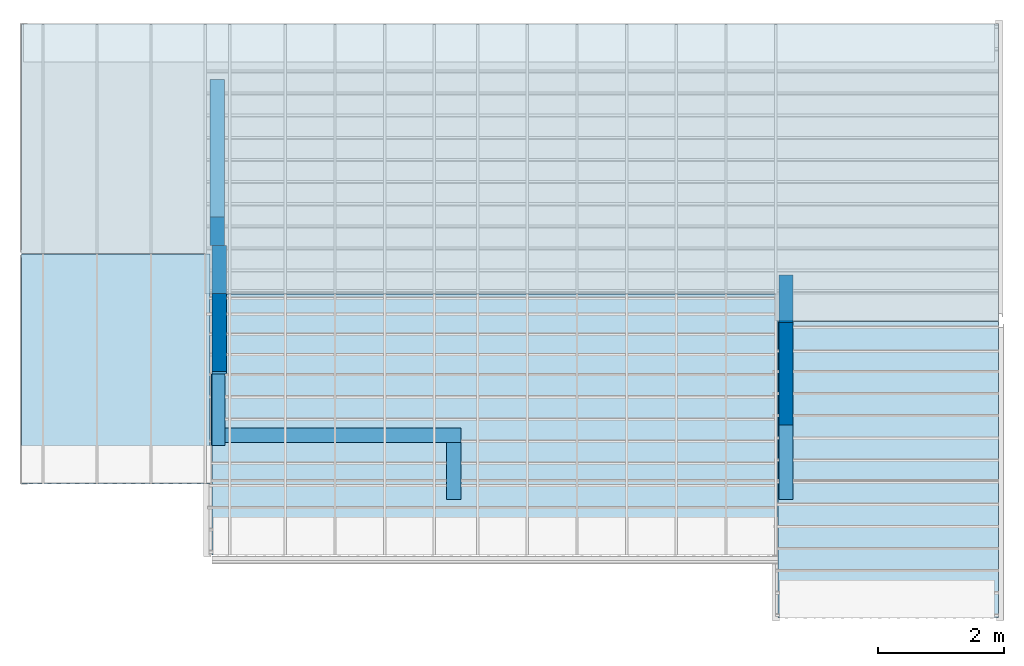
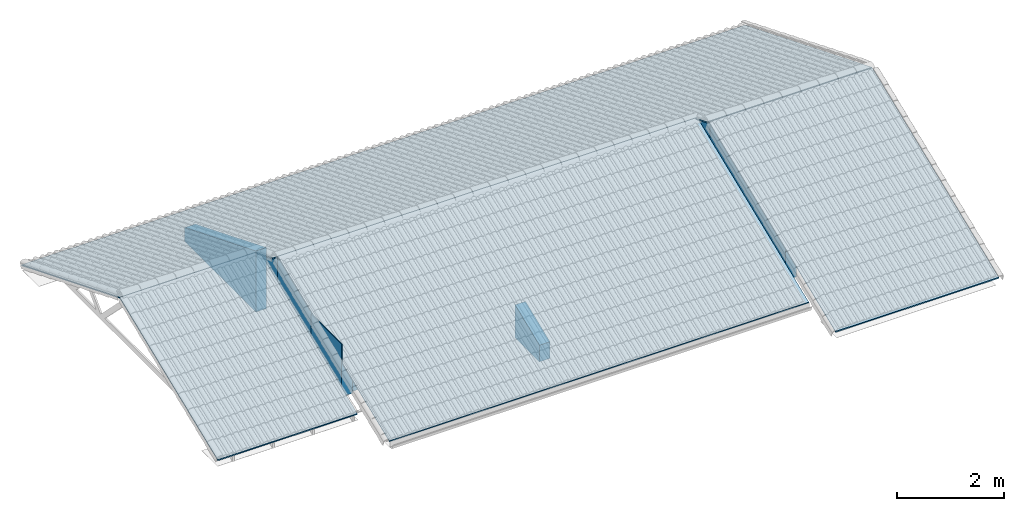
# One storey, part 1 of 5: 8 walls, 4 slabs, 4 elements without a shape of their own.
"""IFC2X3 building model written with IfcOpenShell, lengths in millimetres."""

import ifcopenshell
import ifcopenshell.guid

model = None  # the IFC model being written
_history = None  # IfcOwnerHistory: only IFC2X3 demands one
_inside = {}  # id of a spatial element -> (the spatial element, [elements in it])
_under = {}  # id of a project, library or spatial element -> (it, [spatial elements below it])
_declared = {}  # id of a project -> (the project, [libraries it declares])
_typed = {}  # id of a type object -> (the type object, [elements of that type])
_made_of = {}  # id of a material, layer set ... -> (it, [elements and type objects made of it])


def new_model(schema):
    """Start an empty IFC model of exactly this schema.

    Asked for "IFC4X3", IfcOpenShell would pick the latest addendum, in which some entities
    have other attributes; the version numbers below select the first issue.
    IFC2X3 requires an IfcOwnerHistory on every rooted entity: one is made here for all.
    """
    global model, _history
    if schema == "IFC4X3":
        model = ifcopenshell.file(schema_version=(4, 3, 0, 0))
    else:
        model = ifcopenshell.file(schema=schema)
    _inside.clear()
    _under.clear()
    _declared.clear()
    _typed.clear()
    _made_of.clear()
    _history = None
    if model.schema == "IFC2X3":
        org = make("IfcOrganization", Name="unknown")
        user = make(
            "IfcPersonAndOrganization",
            ThePerson=make("IfcPerson", FamilyName="unknown"),
            TheOrganization=org,
        )
        app = make(
            "IfcApplication",
            ApplicationDeveloper=org,
            Version="unknown",
            ApplicationFullName="unknown",
            ApplicationIdentifier="unknown",
        )
        _history = make(
            "IfcOwnerHistory",
            OwningUser=user,
            OwningApplication=app,
            ChangeAction="ADDED",
            CreationDate=0,
        )
    return model


def make(cls, **values):
    """One entity of the class cls with the attributes given. An attribute that is None is left unset."""
    return model.create_entity(
        cls, **{name: value for name, value in values.items() if value is not None}
    )


def entity(cls, *values):
    """Any entity or typed value of the class cls, its attributes in the order of the schema. None: left unset."""
    e = model.create_entity(cls)
    for i, value in enumerate(values):
        if value is not None:
            e[i] = value
    return e


def rooted(cls, **values):
    """An entity with a GlobalId (a new one), such as an element, a storey or a relation."""
    return make(cls, GlobalId=ifcopenshell.guid.new(), OwnerHistory=_history, **values)


def si_unit(unit_type, name, prefix=None):
    """IfcSIUnit, for example si_unit("LENGTHUNIT", "METRE", prefix="MILLI")."""
    return make("IfcSIUnit", UnitType=unit_type, Prefix=prefix, Name=name)


def converted_unit(unit_type, name, factor, base, dimensions=None, offset=None):
    """IfcConversionBasedUnit, such as the inch: factor (a typed value) times the base unit."""
    return make(
        "IfcConversionBasedUnit"
        if offset is None
        else "IfcConversionBasedUnitWithOffset",
        ConversionOffset=offset,
        Dimensions=None
        if dimensions is None
        else entity("IfcDimensionalExponents", *dimensions),
        UnitType=unit_type,
        Name=name,
        ConversionFactor=make(
            "IfcMeasureWithUnit", ValueComponent=factor, UnitComponent=base
        ),
    )


def derived_unit(unit_type, elements):
    """IfcDerivedUnit: a product of units, each with its exponent."""
    return make(
        "IfcDerivedUnit",
        Elements=[
            make("IfcDerivedUnitElement", Unit=unit, Exponent=power)
            for unit, power in elements
        ],
        UnitType=unit_type,
    )


def assignment(units):
    """IfcUnitAssignment: the units of a project."""
    return None if units is None else make("IfcUnitAssignment", Units=units)


def point(xyz):
    """IfcCartesianPoint."""
    return None if xyz is None else make("IfcCartesianPoint", Coordinates=xyz)


def direction(xyz):
    """IfcDirection."""
    return None if xyz is None else make("IfcDirection", DirectionRatios=xyz)


def frame(location, z_axis=None, x_axis=None):
    """IfcAxis2Placement3D, a coordinate frame: its origin and axes. An axis left out is left unset."""
    return make(
        "IfcAxis2Placement3D",
        Location=point(location),
        Axis=direction(z_axis),
        RefDirection=direction(x_axis),
    )


def frame_2d(location, x_axis=None):
    """IfcAxis2Placement2D, a coordinate frame in the plane: its origin and x axis."""
    return make(
        "IfcAxis2Placement2D", Location=point(location), RefDirection=direction(x_axis)
    )


def origin():
    """The frame at (0, 0, 0) with its axes left unset."""
    return frame((0.0, 0.0, 0.0))


def origin_2d_with_axis():
    """The frame at (0, 0) in the plane with the x axis (1, 0) written out."""
    return frame_2d((0.0, 0.0), x_axis=(1.0, 0.0))


def place(relative_to, where):
    """IfcLocalPlacement: puts the frame where relative to a parent placement (None: the world)."""
    return make(
        "IfcLocalPlacement", PlacementRelTo=relative_to, RelativePlacement=where
    )


def context(
    kind, dimensions, precision=None, world=None, true_north=None, identifier=None
):
    """IfcGeometricRepresentationContext, for example the 3D "Model" context."""
    return make(
        "IfcGeometricRepresentationContext",
        ContextIdentifier=identifier,
        ContextType=kind,
        CoordinateSpaceDimension=dimensions,
        Precision=precision,
        WorldCoordinateSystem=world,
        TrueNorth=true_north,
    )


def subcontext(parent, identifier, kind, view, scale=None):
    """IfcGeometricRepresentationSubContext, for example "Body" below "Model"."""
    return make(
        "IfcGeometricRepresentationSubContext",
        ContextIdentifier=identifier,
        ContextType=kind,
        ParentContext=parent,
        TargetScale=scale,
        TargetView=view,
    )


def project(units=None, contexts=None):
    """IfcProject with its units and contexts."""
    return rooted(
        "IfcProject",
        Name="project",
        RepresentationContexts=contexts,
        UnitsInContext=assignment(units),
    )


def spatial(cls, under=None, at=None, **own):
    """A site, building, storey or space (cls), placed at a placement, below another one or the project."""
    s = rooted(cls, ObjectPlacement=at, **own)
    if under is not None:
        _under.setdefault(under.id(), (under, []))[1].append(s)
    return s


def polyline(points):
    """IfcPolyline through the points."""
    return make("IfcPolyline", Points=[point(p) for p in points])


def profile(cls, at=None, kind="AREA", **sizes):
    """A parametric profile (cls). Its sizes go by their IFC names, for example OverallWidth=200.0."""
    return make(cls, ProfileType=kind, Position=at, **sizes)


def rectangle(**sizes):
    """IfcRectangleProfileDef."""
    return profile("IfcRectangleProfileDef", **sizes)


def outline(outer, holes=None, kind="AREA"):
    """IfcArbitraryClosedProfileDef: a profile drawn as a closed curve; with holes, ...WithVoids."""
    if holes is None:
        return make("IfcArbitraryClosedProfileDef", ProfileType=kind, OuterCurve=outer)
    return make(
        "IfcArbitraryProfileDefWithVoids",
        ProfileType=kind,
        OuterCurve=outer,
        InnerCurves=holes,
    )


def extrude(swept, where, along, depth):
    """IfcExtrudedAreaSolid: the profile swept, set in the frame where, extruded along a direction by depth."""
    return make(
        "IfcExtrudedAreaSolid",
        SweptArea=swept,
        Position=where,
        ExtrudedDirection=direction(along),
        Depth=depth,
    )


def clip(a, b, op="DIFFERENCE"):
    """IfcBooleanClippingResult: the solid a cut by the half space b."""
    return make(
        "IfcBooleanClippingResult", Operator=op, FirstOperand=a, SecondOperand=b
    )


def bounded_halfspace(plane, agree, where, boundary):
    """IfcPolygonalBoundedHalfSpace: a half space limited to a polygon's prism."""
    return make(
        "IfcPolygonalBoundedHalfSpace",
        BaseSurface=make("IfcPlane", Position=plane),
        AgreementFlag=agree,
        Position=where,
        PolygonalBoundary=boundary,
    )


def shape(context_of_items, identifier, shape_type, items):
    """IfcShapeRepresentation: the items that make up one representation, for example the "Body"."""
    return make(
        "IfcShapeRepresentation",
        ContextOfItems=context_of_items,
        RepresentationIdentifier=identifier,
        RepresentationType=shape_type,
        Items=items,
    )


def material(Name=None, Category=None):
    """IfcMaterial."""
    return make("IfcMaterial", Name=Name, Category=Category)


def layer(
    of_material, thickness, ventilated=None, Name=None, Category=None, Priority=None
):
    """IfcMaterialLayer: one layer of a wall or slab, of a material (None: an air gap)."""
    return make(
        "IfcMaterialLayer",
        Material=of_material,
        LayerThickness=thickness,
        IsVentilated=ventilated,
        Name=Name,
        Category=Category,
        Priority=Priority,
    )


def layer_set(layers, Name=None):
    """IfcMaterialLayerSet."""
    return make("IfcMaterialLayerSet", MaterialLayers=layers, LayerSetName=Name)


def layer_usage(for_layer_set, set_direction, sense, offset, extent=None):
    """IfcMaterialLayerSetUsage: how a layer set lies in its element."""
    return make(
        "IfcMaterialLayerSetUsage",
        ForLayerSet=for_layer_set,
        LayerSetDirection=set_direction,
        DirectionSense=sense,
        OffsetFromReferenceLine=offset,
        ReferenceExtent=extent,
    )


def made_of(thing, what):
    """Note that an element or type object is made of a material, layer set ...; save() writes the relation."""
    if what is not None:
        _made_of.setdefault(what.id(), (what, []))[1].append(thing)
    return thing


def type_object(cls, material=None, **own):
    """A type object (cls), such as IfcWallType, which elements share."""
    return made_of(rooted(cls, **own), material)


def element(
    cls,
    number,
    at=None,
    inside=None,
    cuts=None,
    type_object=None,
    material=None,
    context=None,
    identifier="Body",
    shape_type=None,
    held_by="IfcProductDefinitionShape",
    body=None,
    shapes=None,
    **own,
):
    """One element of the class cls, such as IfcWall. Its Tag is "e" and its number.

    at: its placement. inside: the storey or other place that contains it. cuts: it is an
    opening in that element (IfcRelVoidsElement). A single representation is given by context,
    identifier, shape_type and body (its items); several are given by shapes. held_by: the class
    of the entity that holds the representations. save() writes the other relations.
    """
    e = rooted(cls, Tag="e%d" % number, ObjectPlacement=at, **own)
    if body is not None:
        shapes = [shape(context, identifier, shape_type, body)]
    if shapes is not None:
        e.Representation = make(held_by, Representations=shapes)
    if inside is not None:
        _inside.setdefault(inside.id(), (inside, []))[1].append(e)
    if cuts is not None:
        rooted(
            "IfcRelVoidsElement", RelatingBuildingElement=cuts, RelatedOpeningElement=e
        )
    if type_object is not None:
        _typed.setdefault(type_object.id(), (type_object, []))[1].append(e)
    return made_of(e, material)


def aggregate(whole, parts):
    """IfcRelAggregates: a whole, such as a stair, and the parts it consists of."""
    return rooted("IfcRelAggregates", RelatingObject=whole, RelatedObjects=parts)


def save(model, path):
    """Write the relations noted so far, then the file.

    IfcRelAggregates (storeys below a building ...), IfcRelContainedInSpatialStructure (elements
    in a storey), IfcRelDefinesByType, IfcRelAssociatesMaterial and IfcRelDeclares: one each for
    every whole, place, type object, material and project.
    """
    for whole, parts in _under.values():
        aggregate(whole, parts)
    for where, things in _inside.values():
        rooted(
            "IfcRelContainedInSpatialStructure",
            RelatedElements=things,
            RelatingStructure=where,
        )
    for kind, things in _typed.values():
        rooted("IfcRelDefinesByType", RelatedObjects=things, RelatingType=kind)
    for what, things in _made_of.values():
        rooted("IfcRelAssociatesMaterial", RelatedObjects=things, RelatingMaterial=what)
    for by, libraries in _declared.values():
        rooted("IfcRelDeclares", RelatingContext=by, RelatedDefinitions=libraries)
    model.write(path)


model = new_model("IFC2X3")

# Units and contexts
model_context = context("Model", 3, precision=0.01, world=origin(), true_north=direction((6.12303176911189e-17, 1.0)))
body_context = subcontext(model_context, "Body", "Model", "MODEL_VIEW")
ifc_project = project(units=[si_unit("LENGTHUNIT", "METRE", prefix="MILLI"), si_unit("AREAUNIT", "SQUARE_METRE"), si_unit("VOLUMEUNIT", "CUBIC_METRE"), converted_unit("PLANEANGLEUNIT", "DEGREE", entity("IfcRatioMeasure", 0.0174532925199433), si_unit("PLANEANGLEUNIT", "RADIAN"), dimensions=[0, 0, 0, 0, 0, 0, 0]), si_unit("MASSUNIT", "GRAM", prefix="KILO"), derived_unit("MASSDENSITYUNIT", [(si_unit("MASSUNIT", "GRAM", prefix="KILO"), 1), (si_unit("LENGTHUNIT", "METRE"), -3)]), si_unit("TIMEUNIT", "SECOND"), si_unit("FREQUENCYUNIT", "HERTZ"), si_unit("THERMODYNAMICTEMPERATUREUNIT", "DEGREE_CELSIUS"), derived_unit("THERMALTRANSMITTANCEUNIT", [(si_unit("MASSUNIT", "GRAM", prefix="KILO"), 1), (si_unit("THERMODYNAMICTEMPERATUREUNIT", "KELVIN"), -1), (si_unit("TIMEUNIT", "SECOND"), -3)]), derived_unit("VOLUMETRICFLOWRATEUNIT", [(si_unit("LENGTHUNIT", "METRE"), 3), (si_unit("TIMEUNIT", "SECOND"), -1)]), si_unit("ELECTRICCURRENTUNIT", "AMPERE"), si_unit("ELECTRICVOLTAGEUNIT", "VOLT"), si_unit("POWERUNIT", "WATT"), si_unit("FORCEUNIT", "NEWTON", prefix="KILO"), si_unit("ILLUMINANCEUNIT", "LUX"), si_unit("LUMINOUSFLUXUNIT", "LUMEN"), si_unit("LUMINOUSINTENSITYUNIT", "CANDELA"), derived_unit("USERDEFINED", [(si_unit("MASSUNIT", "GRAM", prefix="KILO"), -1), (si_unit("LENGTHUNIT", "METRE"), -2), (si_unit("TIMEUNIT", "SECOND"), 3), (si_unit("LUMINOUSFLUXUNIT", "LUMEN"), 1)]), derived_unit("LINEARVELOCITYUNIT", [(si_unit("LENGTHUNIT", "METRE"), 1), (si_unit("TIMEUNIT", "SECOND"), -1)]), si_unit("PRESSUREUNIT", "PASCAL"), derived_unit("USERDEFINED", [(si_unit("LENGTHUNIT", "METRE"), -2), (si_unit("MASSUNIT", "GRAM", prefix="KILO"), 1), (si_unit("TIMEUNIT", "SECOND"), -2)])], contexts=[model_context])

# Site, building, storey
site_placement = place(None, origin())
site = spatial("IfcSite", under=ifc_project, at=site_placement, Name="Surface", CompositionType="ELEMENT")
building_placement = place(site_placement, origin())
building = spatial("IfcBuilding", under=site, at=building_placement, CompositionType="ELEMENT")
storey_placement = place(building_placement, frame((0.0, 0.0, 2765.0)))
storey = spatial("IfcBuildingStorey", under=building, at=storey_placement, Name="U.S.W.P", CompositionType="ELEMENT", Elevation=2765.0)

# Roof, slab
roof_1_placement = place(storey_placement, frame((-12086.8751700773, 4120.09087597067, -38.0437713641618)))
roof_1 = element("IfcRoof", 1, at=roof_1_placement, inside=storey, Name="Basic Roof:roof 22mm foil", ObjectType="Basic Roof:roof 22mm foil", ShapeType="NOTDEFINED")
ifc_material_1 = material(Name="Default Roof")
ifc_layer_1 = layer(ifc_material_1, 22.0)
ifc_layer_set_1 = layer_set([ifc_layer_1], Name="Basic Roof:roof 22mm foil")
slab_1_placement = place(roof_1_placement, origin())
slab_1 = element("IfcSlab", 2, at=slab_1_placement, material=ifc_layer_set_1, Name="Basic Roof:roof 22mm foil", ObjectType="Basic Roof:roof 22mm foil", PredefinedType="ROOF", context=body_context, shape_type="SweptSolid", body=[
    extrude(rectangle(XDim=3000.0, YDim=3939.34814762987, at=frame_2d((5.6843418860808e-13, -5.6843418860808e-13), x_axis=(-1.0, 0.0))), frame((1500.0, 1826.25, 737.852894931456), z_axis=(0.0, -0.374606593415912, 0.927183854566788), x_axis=(1.0, 0.0, 0.0)), (0.0, 0.374606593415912, 0.927183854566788), 23.7277643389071),
])
aggregate(roof_1, [slab_1])

roof_2_placement = place(storey_placement, frame((-12086.8751700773, 6705.33708968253, -38.0437713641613)))
roof_2 = element("IfcRoof", 3, at=roof_2_placement, inside=storey, Name="Basic Roof:roof 22mm foil", ObjectType="Basic Roof:roof 22mm foil", ShapeType="NOTDEFINED")
slab_2_placement = place(roof_2_placement, origin())
slab_2 = element("IfcSlab", 4, at=slab_2_placement, material=ifc_layer_set_1, Name="Basic Roof:roof 22mm foil", ObjectType="Basic Roof:roof 22mm foil", PredefinedType="ROOF", context=body_context, shape_type="SweptSolid", body=[
    extrude(outline(polyline([(-4855.0, -1392.52282502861), (-4855.0, -2086.57821524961), (4224.0, -2086.57821524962), (4224.0, -2546.82532260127), (7775.0, -2546.82532260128), (7775.0, 2546.82532260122), (-7775.0, 2546.82532260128), (-7775.0, -1392.52282502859), (-4855.0, -1392.52282502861)])), frame((7775.0, 2361.37531951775, 954.057558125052), z_axis=(0.0, 0.374606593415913, 0.927183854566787), x_axis=(1.0, 0.0, 0.0)), (0.0, -0.374606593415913, 0.927183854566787), 23.7277643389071),
])
aggregate(roof_2, [slab_2])

roof_3_placement = place(storey_placement, frame((-9056.87517007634, 2979.59087597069, 21.9562286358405)))
roof_3 = element("IfcRoof", 5, at=roof_3_placement, inside=storey, Name="Basic Roof:roof 22mm foil", ObjectType="Basic Roof:roof 22mm foil", ShapeType="NOTDEFINED")
slab_3_placement = place(roof_3_placement, origin())
slab_3 = element("IfcSlab", 6, at=slab_3_placement, material=ifc_layer_set_1, Name="Basic Roof:roof 22mm foil", ObjectType="Basic Roof:roof 22mm foil", PredefinedType="ROOF", context=body_context, shape_type="SweptSolid", body=[
    extrude(rectangle(XDim=9009.99999999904, YDim=4478.59384123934, at=frame_2d((0.0, -2.27373675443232e-13), x_axis=(1.0, 0.0))), frame((4505.0, 2076.23995037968, 838.855391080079), z_axis=(0.0, -0.374606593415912, 0.927183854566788), x_axis=(1.0, 0.0, 0.0)), (0.0, 0.374606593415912, 0.927183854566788), 23.7277643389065),
])
aggregate(roof_3, [slab_3])

roof_4_placement = place(storey_placement, frame((-46.8751700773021, 1980.09087597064, -38.0437713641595)))
roof_4 = element("IfcRoof", 7, at=roof_4_placement, inside=storey, Name="Basic Roof:roof 22mm foil", ObjectType="Basic Roof:roof 22mm foil", ShapeType="NOTDEFINED")
slab_4_placement = place(roof_4_placement, origin())
slab_4 = element("IfcSlab", 8, at=slab_4_placement, material=ifc_layer_set_1, Name="Basic Roof:roof 22mm foil", ObjectType="Basic Roof:roof 22mm foil", PredefinedType="ROOF", context=body_context, shape_type="SweptSolid", body=[
    extrude(rectangle(XDim=3510.0, YDim=5081.47678851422, at=origin_2d_with_axis()), frame((1755.0, 2355.73161783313, 951.77735463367), z_axis=(0.0, -0.374606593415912, 0.927183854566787), x_axis=(1.0, 0.0, 0.0)), (0.0, 0.374606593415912, 0.927183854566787), 23.7277643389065),
])
aggregate(roof_4, [slab_4])

# Walls
ifc_material_2 = material(Name="Brickwork - 110mm (Stock)")
ifc_layer_2 = layer(ifc_material_2, 110.0)
ifc_material_3 = material(Name="Plaster")
ifc_layer_3 = layer(ifc_material_3, 10.0)
ifc_layer_4 = layer(ifc_material_2, 110.0)
ifc_layer_set_2 = layer_set([ifc_layer_2, ifc_layer_3, ifc_layer_4], Name="Basic Wall:BrickWall - 230mm (Ext.S&Int.S)")
ifc_layer_usage_1 = layer_usage(ifc_layer_set_2, "AXIS2", "POSITIVE", -115.0)
wall_type_1 = type_object("IfcWallType", Name="Basic Wall:BrickWall - 230mm (Ext.S&Int.S)", PredefinedType="STANDARD", material=ifc_layer_set_2)
wall_1_placement = place(storey_placement, frame((-8971.8751700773, 10545.8400891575, 0.0), z_axis=(0.0, 0.0, 1.0), x_axis=(0.0, -1.0, 0.0)))
element("IfcWallStandardCase", 9, at=wall_1_placement, inside=storey, type_object=wall_type_1, material=ifc_layer_usage_1, Name="Basic Wall:BrickWall - 230mm (Ext.S&Int.S)", ObjectType="Basic Wall:BrickWall - 230mm (Ext.S&Int.S)", context=body_context, shape_type="Clipping", body=[
    clip(extrude(rectangle(XDim=2644.99999999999, YDim=230.0, at=frame_2d((1322.5, -8.5265128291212e-14), x_axis=(-1.0, 0.0))), origin(), (0.0, 0.0, 1.0), 1387.05678003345), bounded_halfspace(frame((0.0, -115.0, 318.407412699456), z_axis=(-0.374606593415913, 0.0, 0.927183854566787), x_axis=(0.0, -1.0, 0.0)), False, frame((0.0, -115.0, 318.407412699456)), polyline([(0.0, 0.0), (2645.0, 0.0), (2645.0, 30.0), (2645.0, 230.0), (0.0, 230.0), (0.0, 0.0)]))),
])
ifc_layer_usage_2 = layer_usage(ifc_layer_set_2, "AXIS2", "NEGATIVE", 115.0)
wall_2_placement = place(storey_placement, frame((-8846.87517007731, 4885.84008915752, 0.0)))
element("IfcWallStandardCase", 10, at=wall_2_placement, inside=storey, type_object=wall_type_1, material=ifc_layer_usage_2, Name="Basic Wall:BrickWall - 230mm (Ext.S&Int.S)", ObjectType="Basic Wall:BrickWall - 230mm (Ext.S&Int.S)", context=body_context, shape_type="Clipping", body=[
    clip(extrude(rectangle(XDim=3750.00000000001, YDim=230.0, at=frame_2d((1875.00000000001, -1.4210854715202e-14), x_axis=(-1.0, 0.0))), origin(), (0.0, 0.0, 1.0), 838.593919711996), bounded_halfspace(frame((0.0, -115.0, 745.66788776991), z_axis=(0.0, -0.374606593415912, 0.927183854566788), x_axis=(1.0, 0.0, 0.0)), False, frame((0.0, -115.0, 745.66788776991)), polyline([(0.0, 0.0), (3520.0, 0.0), (3750.0, 0.0), (3750.0, 230.0), (0.0, 230.0), (0.0, 0.0)]))),
])
ifc_layer_usage_3 = layer_usage(ifc_layer_set_2, "AXIS2", "NEGATIVE", 115.0)
wall_3_placement = place(storey_placement, frame((-5211.8751700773, 4770.84008915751, 0.0), z_axis=(0.0, 0.0, 1.0), x_axis=(0.0, -1.0, 0.0)))
element("IfcWallStandardCase", 11, at=wall_3_placement, inside=storey, type_object=wall_type_1, material=ifc_layer_usage_3, Name="Basic Wall:BrickWall - 230mm (Ext.S&Int.S)", ObjectType="Basic Wall:BrickWall - 230mm (Ext.S&Int.S)", context=body_context, shape_type="Clipping", body=[
    clip(extrude(rectangle(XDim=910.000000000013, YDim=230.0, at=frame_2d((455.000000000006, -2.20268248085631e-13), x_axis=(-1.0, 0.0))), origin(), (0.0, 0.0, 1.0), 745.667887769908), bounded_halfspace(frame((0.0, -115.0, 745.667887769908), z_axis=(0.374606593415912, 0.0, 0.927183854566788), x_axis=(0.0, 1.0, 0.0)), False, frame((0.0, -115.0, 745.667887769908)), polyline([(0.0, 0.0), (910.0, 0.0), (910.0, 230.0), (0.0, 230.0), (0.0, 0.0)]))),
])
ifc_material_4 = material(Name="Brickwork - Facebrick (Plettenberg Autumn)")
ifc_layer_5 = layer(ifc_material_4, 110.0)
ifc_layer_6 = layer(ifc_material_3, 10.0)
ifc_layer_7 = layer(ifc_material_2, 110.0)
ifc_layer_set_3 = layer_set([ifc_layer_5, ifc_layer_6, ifc_layer_7], Name="Basic Wall:BrickWall - 230mm (Ext.F&Int.S)")
ifc_layer_usage_4 = layer_usage(ifc_layer_set_3, "AXIS2", "NEGATIVE", 115.0)
wall_type_2 = type_object("IfcWallType", Name="Basic Wall:BrickWall - 230mm (Ext.F&Int.S)", PredefinedType="STANDARD", material=ifc_layer_set_3)
wall_4_placement = place(storey_placement, frame((-8941.87517007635, 5860.84008915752, 0.0), z_axis=(0.0, 0.0, 1.0), x_axis=(0.0, 1.0, 0.0)))
element("IfcWallStandardCase", 12, at=wall_4_placement, inside=storey, type_object=wall_type_2, material=ifc_layer_usage_4, Name="Basic Wall:BrickWall - 230mm (Ext.F&Int.S)", ObjectType="Basic Wall:BrickWall - 230mm (Ext.F&Int.S)", context=body_context, shape_type="Clipping", body=[
    clip(clip(extrude(rectangle(XDim=1280.0, YDim=230.0, at=frame_2d((640.0, -4.54747350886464e-13), x_axis=(-1.0, 0.0))), origin(), (0.0, 0.0, 1.0), 1699.66701079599), bounded_halfspace(frame((1271.23068757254, -115.0, 1697.6597438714), z_axis=(0.374606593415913, 0.0, 0.927183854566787), x_axis=(0.0, 1.0, 0.0)), False, frame((1271.23068757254, -115.0, 1697.6597438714)), polyline([(0.0, 0.0), (8.76931242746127, 0.0), (8.76931242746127, 230.0), (0.0, 230.0), (0.0, 0.0)]))), bounded_halfspace(frame((0.0, -115.0, 1186.05647393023), z_axis=(-0.374606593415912, 0.0, 0.927183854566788), x_axis=(0.0, -1.0, 0.0)), False, frame((0.0, -115.0, 1186.05647393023)), polyline([(0.0, 0.0), (1271.23068757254, 0.0), (1271.23068757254, 230.0), (0.0, 230.0), (0.0, 20.0), (0.0, 0.0)]))),
])
ifc_layer_usage_5 = layer_usage(ifc_layer_set_3, "AXIS2", "NEGATIVE", 115.0)
wall_5_placement = place(storey_placement, frame((-8941.87517007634, 7140.84008915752, 0.0), z_axis=(0.0, 0.0, 1.0), x_axis=(0.0, 1.0, 0.0)))
element("IfcWallStandardCase", 13, at=wall_5_placement, inside=storey, type_object=wall_type_2, material=ifc_layer_usage_5, Name="Basic Wall:BrickWall - 230mm (Ext.F&Int.S)", ObjectType="Basic Wall:BrickWall - 230mm (Ext.F&Int.S)", context=body_context, shape_type="Clipping", body=[
    clip(extrude(rectangle(XDim=759.999999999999, YDim=230.0, at=frame_2d((380.0, 1.56319401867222e-13), x_axis=(-1.0, 0.0))), origin(), (0.0, 0.0, 1.0), 1694.11671166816), bounded_halfspace(frame((0.0, -115.0, 1694.11671166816), z_axis=(0.374606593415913, 0.0, 0.927183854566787), x_axis=(0.0, 1.0, 0.0)), False, frame((0.0, -115.0, 1694.11671166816)), polyline([(0.0, 0.0), (760.0, 0.0), (760.0, 30.0), (760.0, 230.0), (0.0, 230.0), (0.0, 0.0)]))),
])
ifc_layer_usage_6 = layer_usage(ifc_layer_set_3, "AXIS2", "NEGATIVE", 115.0)
wall_6_placement = place(storey_placement, frame((-8961.87517007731, 4720.84008915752, 0.0), z_axis=(0.0, 0.0, 1.0), x_axis=(0.0, 1.0, 0.0)))
element("IfcWallStandardCase", 14, at=wall_6_placement, inside=storey, type_object=wall_type_2, material=ifc_layer_usage_6, Name="Basic Wall:BrickWall - 230mm (Ext.F&Int.S)", ObjectType="Basic Wall:BrickWall - 230mm (Ext.F&Int.S)", context=body_context, shape_type="Clipping", body=[
    clip(extrude(rectangle(XDim=1140.0, YDim=230.0, at=frame_2d((570.0, -3.90798504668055e-13), x_axis=(-1.0, 0.0))), origin(), (0.0, 0.0, 1.0), 1186.05647393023), bounded_halfspace(frame((0.0, -115.0, 725.466576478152), z_axis=(-0.374606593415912, 0.0, 0.927183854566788), x_axis=(0.0, -1.0, 0.0)), False, frame((0.0, -115.0, 725.466576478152)), polyline([(0.0, 0.0), (50.0, 0.0), (280.0, 0.0), (1140.0, 0.0), (1140.0, 210.0), (0.0, 210.0), (0.0, 0.0)]))),
])
ifc_layer_8 = layer(ifc_material_2, 110.0)
ifc_layer_9 = layer(ifc_material_3, 10.0)
ifc_layer_10 = layer(ifc_material_4, 110.0)
ifc_layer_set_4 = layer_set([ifc_layer_8, ifc_layer_9, ifc_layer_10], Name="Basic Wall:BrickWall - 230mm (Ext.F&Int.S) 2")
ifc_layer_usage_7 = layer_usage(ifc_layer_set_4, "AXIS2", "POSITIVE", -115.0)
wall_type_3 = type_object("IfcWallType", Name="Basic Wall:BrickWall - 230mm (Ext.F&Int.S) 2", PredefinedType="STANDARD", material=ifc_layer_set_4)
wall_7_placement = place(storey_placement, frame((78.1248299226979, 3860.84008915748, 0.0), z_axis=(0.0, 0.0, 1.0), x_axis=(0.0, 1.0, 0.0)))
element("IfcWallStandardCase", 15, at=wall_7_placement, inside=storey, type_object=wall_type_3, material=ifc_layer_usage_7, Name="Basic Wall:BrickWall - 230mm (Ext.F&Int.S) 2", ObjectType="Basic Wall:BrickWall - 230mm (Ext.F&Int.S) 2", context=body_context, shape_type="Clipping", body=[
    clip(extrude(rectangle(XDim=2820.0, YDim=230.0, at=frame_2d((1410.0, 7.105427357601e-15), x_axis=(-1.0, 0.0))), origin(), (0.0, 0.0, 1.0), 1861.1821918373), bounded_halfspace(frame((0.0, -115.0, 721.828234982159), z_axis=(-0.374606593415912, 0.0, 0.927183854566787), x_axis=(0.0, -1.0, 0.0)), False, frame((0.0, -115.0, 721.828234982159)), polyline([(0.0, 0.0), (2820.0, 0.0), (2820.0, 230.0), (0.0, 230.0), (0.0, 0.0)]))),
])
ifc_layer_usage_8 = layer_usage(ifc_layer_set_4, "AXIS2", "POSITIVE", -115.0)
wall_8_placement = place(storey_placement, frame((78.1248299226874, 6680.84008915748, 0.0), z_axis=(0.0, 0.0, 1.0), x_axis=(0.0, 1.0, 0.0)))
element("IfcWallStandardCase", 16, at=wall_8_placement, inside=storey, type_object=wall_type_3, material=ifc_layer_usage_8, Name="Basic Wall:BrickWall - 230mm (Ext.F&Int.S) 2", ObjectType="Basic Wall:BrickWall - 230mm (Ext.F&Int.S) 2", context=body_context, shape_type="Clipping", body=[
    clip(extrude(rectangle(XDim=755.000000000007, YDim=230.0, at=frame_2d((377.500000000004, 0.0), x_axis=(-1.0, 0.0))), origin(), (0.0, 0.0, 1.0), 1870.07134488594), bounded_halfspace(frame((24.4970005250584, -115.0, 1870.07134488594), z_axis=(0.374606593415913, 0.0, 0.927183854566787), x_axis=(0.0, 1.0, 0.0)), False, frame((24.4970005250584, -115.0, 1870.07134488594)), polyline([(0.0, 0.0), (730.502999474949, 0.0), (730.502999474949, 230.0), (0.0, 230.0), (0.0, 0.0)]))),
])

save(model, "model.ifc")
